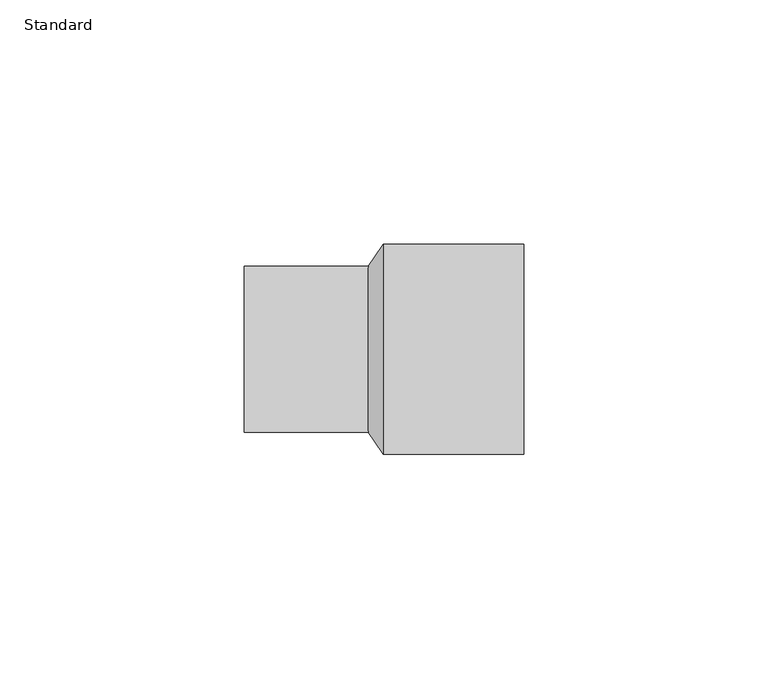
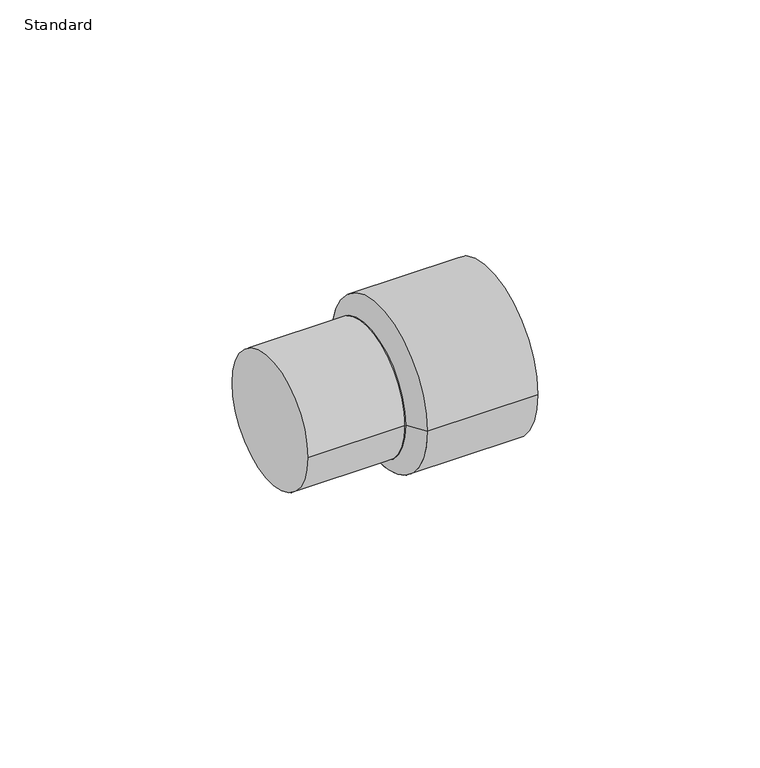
"""IFC4 building model written with IfcOpenShell, lengths in millimetres: pipe fitting geometry, M_Coupling Reducing - CPVC - Sch 40 : Standard."""

from ifc_helpers import new_model, si_unit, point, frame, origin, origin_2d, place, context, project, spatial, polyline, circle_curve, trimmed, segment, composite_curve, outline, extrude, source, transform, mapped, element, save
from ifc_brep_helpers import plane_surface, revolved_surface, advanced_brep


def standard_c7dcb452(model_context):
    return source(origin(), model_context, "Body", "SolidModel", [
        advanced_brep(
        [(28.448, -21.463, 0.0), (28.448, 21.463, 0.0), (25.4, -17.018, 0.0), (25.4, 17.018, 0.0)],
        [
            (0, 1, circle_curve(frame((28.448, 0.0, 0.0), z_axis=(1.0, -4.451994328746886e-12, 0.0), x_axis=(-4.452044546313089e-12, -1.0, 0.0)), 21.463)),
            (1, 0, circle_curve(frame((28.448, 0.0, 0.0), z_axis=(1.0, -4.451994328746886e-12, 0.0), x_axis=(4.452044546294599e-12, 1.0, 0.0)), 21.463)),
            (2, 3, circle_curve(frame((25.4, 0.0, 0.0), z_axis=(-1.0, 4.451994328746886e-12, 0.0), x_axis=(4.452044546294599e-12, 1.0, 0.0)), 17.018)),
            (3, 2, circle_curve(frame((25.4, 0.0, 0.0), z_axis=(-1.0, 4.451994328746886e-12, 0.0), x_axis=(-4.452044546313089e-12, -1.0, 0.0)), 17.018)),
            (3, 1),
            (0, 2),
        ],
        [
            plane_surface(frame((28.448, 0.0, 0.0), z_axis=(1.0, 0.0, 0.0), x_axis=(0.0, 0.0, -1.0))),
            plane_surface(frame((25.4, 0.0, 0.0), z_axis=(-1.0, 0.0, 0.0), x_axis=(0.0, 0.0, -1.0))),
            revolved_surface(polyline([(25.4, 17.017999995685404, 0.0), (28.448000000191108, 21.4630000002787, 0.0)]), (13.7305143, 0.0, 0.0), (1.0, -4.451994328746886e-12, 0.0)),
            revolved_surface(polyline([(25.39999999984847, -17.017999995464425, 0.0), (28.448, -21.463, 0.0)]), (13.7305143, 0.0, 0.0), (1.0, -4.451994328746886e-12, 0.0)),
        ],
        [
            (0, [[1, 2]]),
            (1, [[3, 4]]),
            (2, [[-4, 5, -1, 6]]),
            (3, [[-3, -6, -2, -5]]),
        ],
    ),
        extrude(outline(composite_curve([segment(trimmed(circle_curve(origin_2d(), 21.463), [point((-21.463, 0.0))], [point((21.463, 0.0))], False, "CARTESIAN"), True, "CONTINUOUS"), segment(trimmed(circle_curve(origin_2d(), 21.463), [point((21.463, 0.0))], [point((-21.463, 0.0))], False, "CARTESIAN"), True, "CONTINUOUS")], self_intersect=False)), frame((28.448, 0.0, 0.0), z_axis=(1.0, 0.0, 0.0), x_axis=(0.0, 1.0, 0.0)), (0.0, 0.0, 1.0), 28.702),
        extrude(outline(composite_curve([segment(trimmed(circle_curve(origin_2d(), 17.018), [point((-17.018, 0.0))], [point((17.018, 0.0))], False, "CARTESIAN"), True, "CONTINUOUS"), segment(trimmed(circle_curve(origin_2d(), 17.018), [point((17.018, 0.0))], [point((-17.018, 0.0))], False, "CARTESIAN"), True, "CONTINUOUS")], self_intersect=False)), frame((0.0, 0.0, 0.0), z_axis=(1.0, 0.0, 0.0), x_axis=(0.0, 1.0, 0.0)), (0.0, 0.0, 1.0), 25.4),
    ])


if __name__ == "__main__":
    model = new_model("IFC4")
    model_context = context("Model", 3, world=origin())
    ifc_project = project(units=[si_unit("LENGTHUNIT", "METRE", prefix="MILLI")], contexts=[model_context])
    site = spatial("IfcSite", under=ifc_project)
    building = spatial("IfcBuilding", under=site)
    placement = place(None, origin())
    standard_shape = standard_c7dcb452(model_context)
    element("IfcPipeFitting", 1, ObjectType="M_Coupling Reducing - CPVC - Sch 40 : Standard", at=placement, inside=building, context=model_context, shape_type="MappedRepresentation", body=[
        mapped(standard_shape, transform((0.0, 0.0, 0.0), x_axis=(1.0, 0.0, 0.0), y_axis=(0.0, 1.0, 0.0), z_axis=(0.0, 0.0, 1.0))),
    ])
    save(model, "model.ifc")
